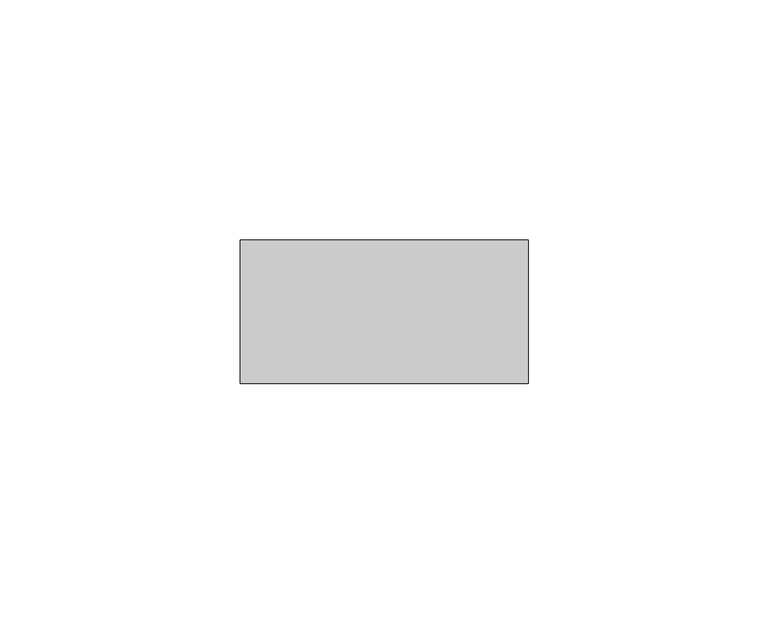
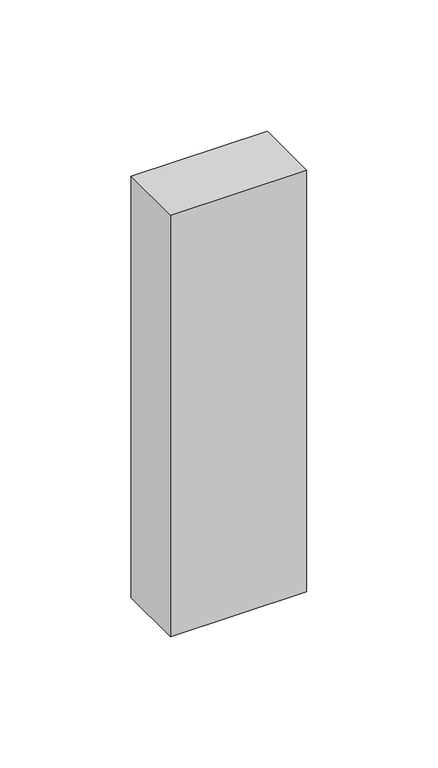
"""IFC4 building model written with IfcOpenShell, lengths in millimetres: member geometry, Прямоугольный импост : Квадрат 30 мм."""

from ifc_helpers import new_model, si_unit, frame, origin, place, context, project, spatial, polyline, outline, extrude, source, transform, mapped, element, save


def member_e65b4933(model_context):
    return source(origin(), model_context, "Body", "SweptSolid", [
        extrude(outline(polyline([(0.0, 15.0), (0.0, -15.0), (-60.0, -15.0), (-60.0, 15.0), (0.0, 15.0)])), frame((0.0, 0.0, -196.0), z_axis=(0.0, 0.0, 1.0), x_axis=(1.0, 0.0, 0.0)), (0.0, 0.0, 1.0), 196.0),
    ])


if __name__ == "__main__":
    model = new_model("IFC4")
    model_context = context("Model", 3, world=origin())
    ifc_project = project(units=[si_unit("LENGTHUNIT", "METRE", prefix="MILLI")], contexts=[model_context])
    site = spatial("IfcSite", under=ifc_project)
    building = spatial("IfcBuilding", under=site)
    placement = place(None, origin())
    member_shape = member_e65b4933(model_context)
    element("IfcMember", 1, ObjectType="Прямоугольный импост : Квадрат 30 мм", at=placement, inside=building, context=model_context, shape_type="MappedRepresentation", body=[
        mapped(member_shape, transform((0.0, 0.0, 0.0), x_axis=(1.0, 0.0, 0.0), y_axis=(0.0, 1.0, 0.0), z_axis=(0.0, 0.0, 1.0))),
    ])
    save(model, "model.ifc")
